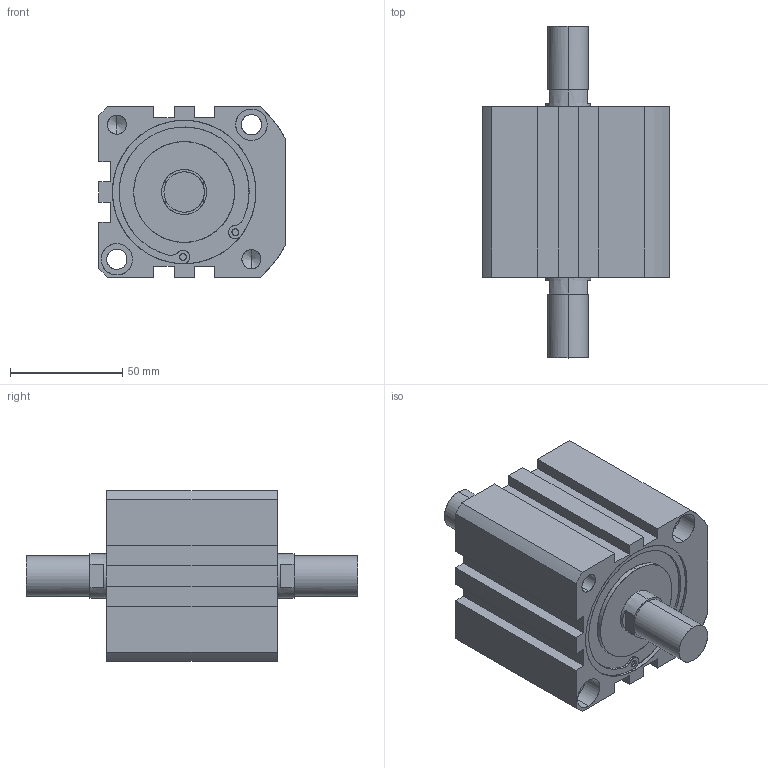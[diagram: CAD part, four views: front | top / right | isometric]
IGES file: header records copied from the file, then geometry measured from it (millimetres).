
Start section: SolidWorks IGES file using analytic representation for surfaces
Global section: file name: C:\Users\Toshiba\Desktop\XG#M7-63D-10.IGS; native system: SolidWorks 2014; preprocessor: SolidWorks 2014; author: Toshiba; date: 160524.102510; units: millimetre
Bounding box: 83 x 148 x 76 mm (x, y, z)
Surface area: 53041 mm2 (no closed solid volume)
Topology: 0 solids, 0 shells, 149 faces, 2738 edges, 2726 vertices
Faces by surface type: revolution 85, bspline 64
